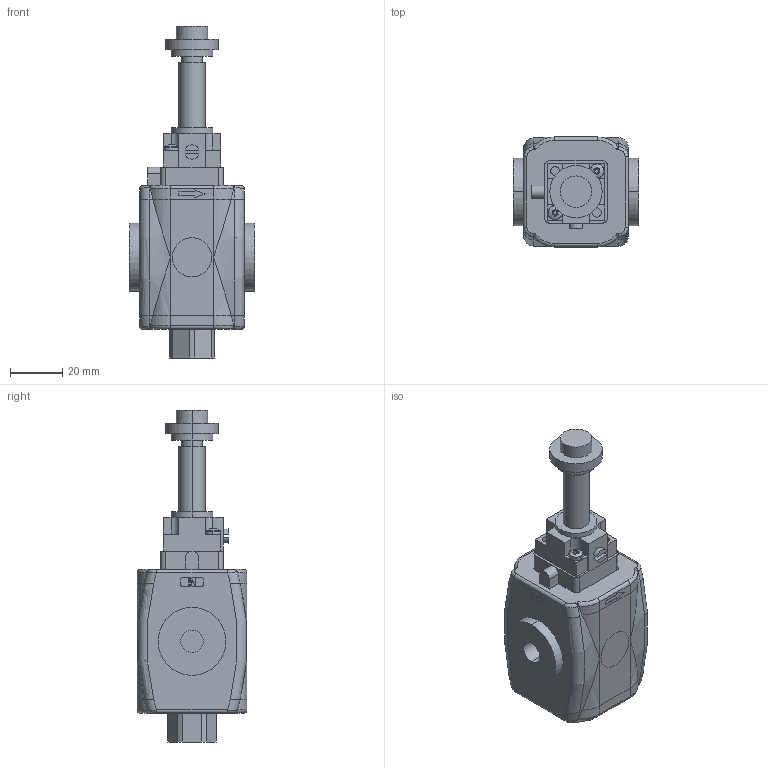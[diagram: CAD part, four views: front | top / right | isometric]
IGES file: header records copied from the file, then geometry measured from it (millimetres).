
Global section: file name: No Iges File Name specified; native system: Autodesk Inventor 2010; preprocessor: AutoDesk Inventor Iges Exporter R2010; author: valotma1; date: 20100823.141844; units: millimetre
Bounding box: 48 x 42 x 127 mm (x, y, z)
Volume: 108834.2 mm3; surface area: 19225.3 mm2
Topology: 4 solids, 4 shells, 376 faces, 938 edges, 575 vertices
Faces by surface type: plane 145, bspline 76, cylinder 65, revolution 56, torus 28, cone 4, sphere 2
